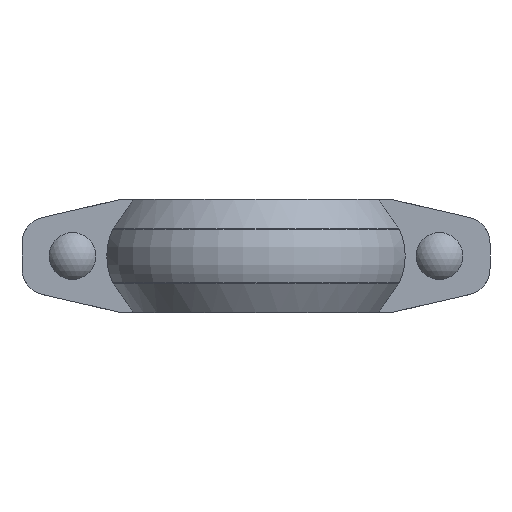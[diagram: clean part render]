
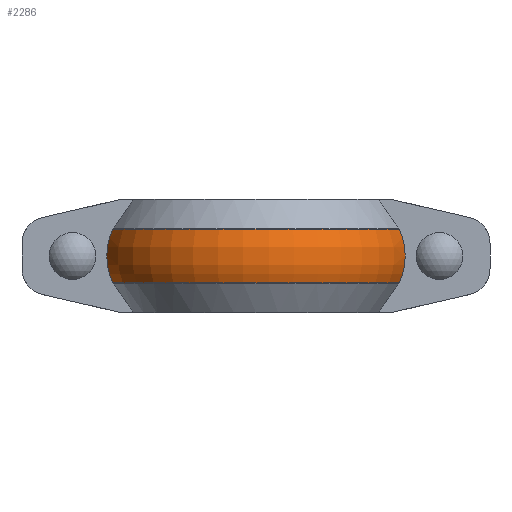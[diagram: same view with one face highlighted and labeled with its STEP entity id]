
A CAD part, front view. The second image highlights one B-rep face of the part: STEP entity #2286.
In plain terms, the highlighted toroidal (fillet/blend) face has major radius 43.173 mm and minor radius 31.503 mm.
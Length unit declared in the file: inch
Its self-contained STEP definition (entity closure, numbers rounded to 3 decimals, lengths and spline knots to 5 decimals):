
#47=TOROIDAL_SURFACE('',#2530,1.69972,1.24028);
#77=B_SPLINE_CURVE_WITH_KNOTS('',3,(#4477,#4478,#4479,#4480,#4481,#4482,
#4483,#4484,#4485,#4486,#4487,#4488,#4489,#4490),.UNSPECIFIED.,.F.,.F.,
(4,2,2,2,2,2,4),(23.98241,24.08992,24.65791,25.22589,
25.79388,26.36186,26.46938),.UNSPECIFIED.);
#80=B_SPLINE_CURVE_WITH_KNOTS('',3,(#4507,#4508,#4509,#4510,#4511,#4512,
#4513,#4514,#4515,#4516,#4517,#4518,#4519,#4520),.UNSPECIFIED.,.F.,.F.,
(4,2,2,2,2,2,4),(7.16514,7.27266,7.84065,8.40863,
8.97662,9.5446,9.65212),.UNSPECIFIED.);
#309=FACE_OUTER_BOUND('',#441,.T.);
#441=EDGE_LOOP('',(#1976,#1977,#1978,#1979));
#855=CIRCLE('',#2522,2.83437);
#860=CIRCLE('',#2531,2.83437);
#1053=VERTEX_POINT('',#4471);
#1054=VERTEX_POINT('',#4476);
#1057=VERTEX_POINT('',#4501);
#1058=VERTEX_POINT('',#4506);
#1354=EDGE_CURVE('',#1054,#1053,#77,.T.);
#1358=EDGE_CURVE('',#1058,#1057,#80,.T.);
#1371=EDGE_CURVE('',#1054,#1057,#855,.T.);
#1376=EDGE_CURVE('',#1058,#1053,#860,.T.);
#1976=ORIENTED_EDGE('',*,*,#1358,.T.);
#1977=ORIENTED_EDGE('',*,*,#1371,.F.);
#1978=ORIENTED_EDGE('',*,*,#1354,.T.);
#1979=ORIENTED_EDGE('',*,*,#1376,.F.);
#2286=ADVANCED_FACE('',(#309),#47,.T.);
#2522=AXIS2_PLACEMENT_3D('',#4572,#3135,#3136);
#2530=AXIS2_PLACEMENT_3D('',#4580,#3151,#3152);
#2531=AXIS2_PLACEMENT_3D('',#4581,#3153,#3154);
#3135=DIRECTION('center_axis',(0.,0.,-1.));
#3136=DIRECTION('ref_axis',(0.,1.,0.));
#3151=DIRECTION('center_axis',(0.,0.,-1.));
#3152=DIRECTION('ref_axis',(1.,0.,0.));
#3153=DIRECTION('center_axis',(0.,0.,1.));
#3154=DIRECTION('ref_axis',(0.,1.,0.));
#4471=CARTESIAN_POINT('',(2.67746,-0.93,0.50085));
#4476=CARTESIAN_POINT('',(2.67746,-0.93,-0.50085));
#4477=CARTESIAN_POINT('Ctrl Pts',(2.67746,-0.93,-0.50085));
#4478=CARTESIAN_POINT('Ctrl Pts',(2.68361,-0.93,-0.48768));
#4479=CARTESIAN_POINT('Ctrl Pts',(2.68945,-0.93,-0.47457));
#4480=CARTESIAN_POINT('Ctrl Pts',(2.72406,-0.93,-0.39296));
#4481=CARTESIAN_POINT('Ctrl Pts',(2.74899,-0.93,-0.31512));
#4482=CARTESIAN_POINT('Ctrl Pts',(2.78148,-0.93,-0.15591));
#4483=CARTESIAN_POINT('Ctrl Pts',(2.78903,-0.93,-0.07454));
#4484=CARTESIAN_POINT('Ctrl Pts',(2.78903,-0.93,0.07454));
#4485=CARTESIAN_POINT('Ctrl Pts',(2.78148,-0.93,0.15591));
#4486=CARTESIAN_POINT('Ctrl Pts',(2.74899,-0.93,0.31512));
#4487=CARTESIAN_POINT('Ctrl Pts',(2.72406,-0.93,0.39296));
#4488=CARTESIAN_POINT('Ctrl Pts',(2.68945,-0.93,0.47457));
#4489=CARTESIAN_POINT('Ctrl Pts',(2.68361,-0.93,0.48768));
#4490=CARTESIAN_POINT('Ctrl Pts',(2.67746,-0.93,0.50085));
#4501=CARTESIAN_POINT('',(-2.67746,-0.93,-0.50085));
#4506=CARTESIAN_POINT('',(-2.67746,-0.93,0.50085));
#4507=CARTESIAN_POINT('Ctrl Pts',(-2.67746,-0.93,0.50085));
#4508=CARTESIAN_POINT('Ctrl Pts',(-2.68361,-0.93,0.48768));
#4509=CARTESIAN_POINT('Ctrl Pts',(-2.68945,-0.93,0.47457));
#4510=CARTESIAN_POINT('Ctrl Pts',(-2.72406,-0.93,0.39296));
#4511=CARTESIAN_POINT('Ctrl Pts',(-2.74899,-0.93,0.31512));
#4512=CARTESIAN_POINT('Ctrl Pts',(-2.78148,-0.93,0.15591));
#4513=CARTESIAN_POINT('Ctrl Pts',(-2.78903,-0.93,0.07454));
#4514=CARTESIAN_POINT('Ctrl Pts',(-2.78903,-0.93,-0.07454));
#4515=CARTESIAN_POINT('Ctrl Pts',(-2.78148,-0.93,-0.15591));
#4516=CARTESIAN_POINT('Ctrl Pts',(-2.74899,-0.93,-0.31512));
#4517=CARTESIAN_POINT('Ctrl Pts',(-2.72406,-0.93,-0.39296));
#4518=CARTESIAN_POINT('Ctrl Pts',(-2.68945,-0.93,-0.47457));
#4519=CARTESIAN_POINT('Ctrl Pts',(-2.68361,-0.93,-0.48768));
#4520=CARTESIAN_POINT('Ctrl Pts',(-2.67746,-0.93,-0.50085));
#4572=CARTESIAN_POINT('Origin',(0.,0.,-0.50085));
#4580=CARTESIAN_POINT('Origin',(0.,0.,0.));
#4581=CARTESIAN_POINT('Origin',(0.,0.,0.50085));
